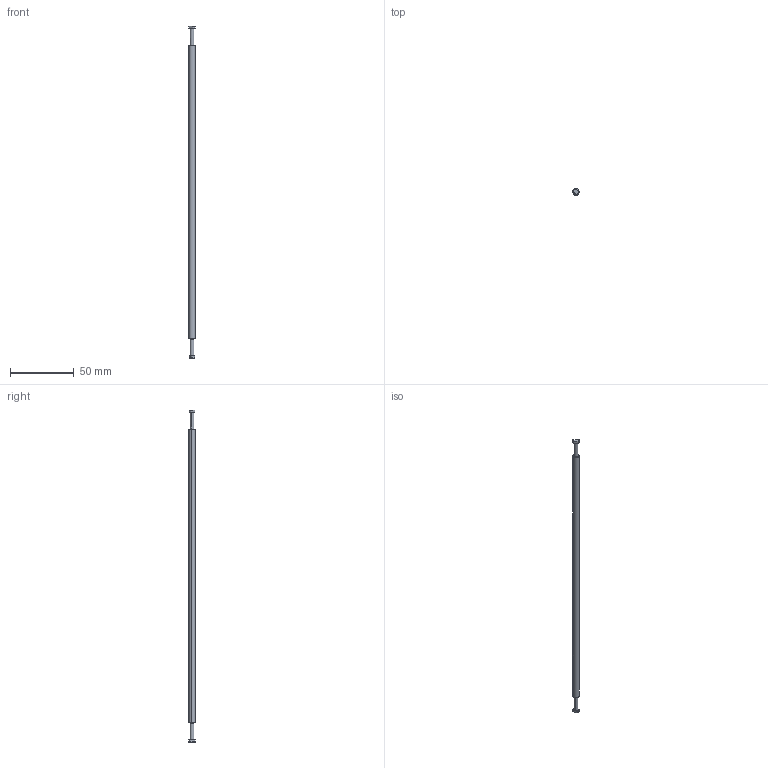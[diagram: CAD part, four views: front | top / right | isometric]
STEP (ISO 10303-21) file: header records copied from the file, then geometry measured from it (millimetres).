
FILE_DESCRIPTION (( 'STEP AP203' ), '1' );
FILE_NAME ('GG0FH01.STEP', '2025-05-13T08:08:20', ( '微软用户' ), ( '微软中国' ), 'SwSTEP 2.0', 'SolidWorks 2021', '' );
FILE_SCHEMA (( 'CONFIG_CONTROL_DESIGN' ));
Length unit declared in the file: millimetre
Products named in the file (1): GG0FH01
Bounding box: 5.03 x 5.15 x 261 mm (x, y, z)
Volume: 4772.7 mm3; surface area: 3993.1 mm2
Topology: 1 solids, 1 shells, 83 faces, 198 edges, 111 vertices
Faces by surface type: cylinder 34, torus 21, plane 16, bspline 12
Entity records: 2629 total; most frequent: CARTESIAN_POINT 701, DIRECTION 414, ORIENTED_EDGE 380, EDGE_CURVE 190, AXIS2_PLACEMENT_3D 176, VERTEX_POINT 111, CIRCLE 104, EDGE_LOOP 85
